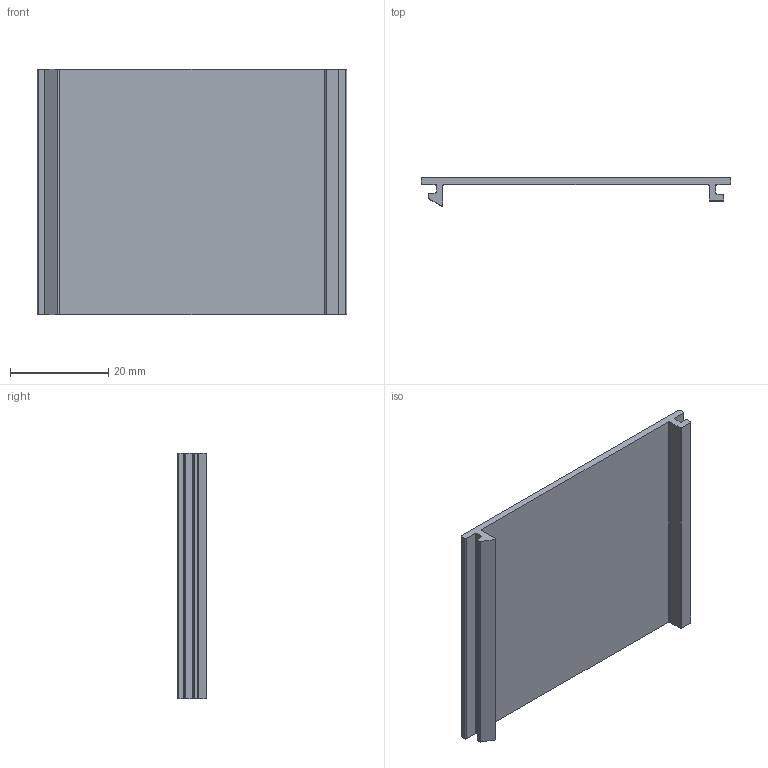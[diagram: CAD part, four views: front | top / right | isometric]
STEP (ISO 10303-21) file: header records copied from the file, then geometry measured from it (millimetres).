
FILE_DESCRIPTION (( 'STEP AP203' ), '1' );
FILE_NAME ('AU4080-11.STEP', '2025-01-13T08:28:44', ( 'User' ), ( '' ), 'SwSTEP 2.0', 'SolidWorks 2014', '' );
FILE_SCHEMA (( 'CONFIG_CONTROL_DESIGN' ));
Length unit declared in the file: millimetre
Products named in the file (1): AU4080-11
Bounding box: 63 x 5.85 x 50 mm (x, y, z)
Volume: 5168.6 mm3; surface area: 7626.4 mm2
Topology: 1 solids, 1 shells, 34 faces, 96 edges, 64 vertices
Faces by surface type: plane 18, cylinder 16
Entity records: 1189 total; most frequent: DIRECTION 198, CARTESIAN_POINT 195, ORIENTED_EDGE 192, EDGE_CURVE 96, AXIS2_PLACEMENT_3D 67, LINE 64, VERTEX_POINT 64, VECTOR 64
